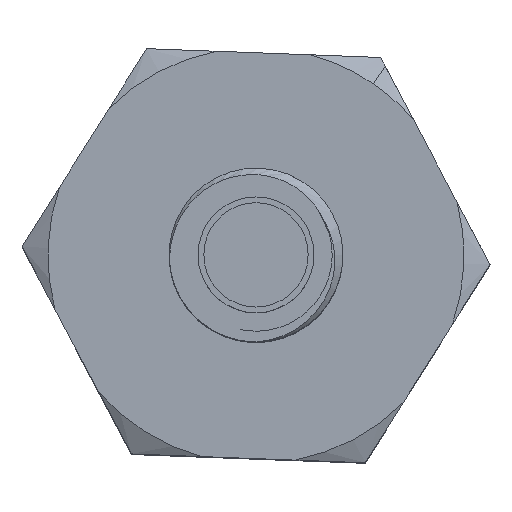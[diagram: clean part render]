
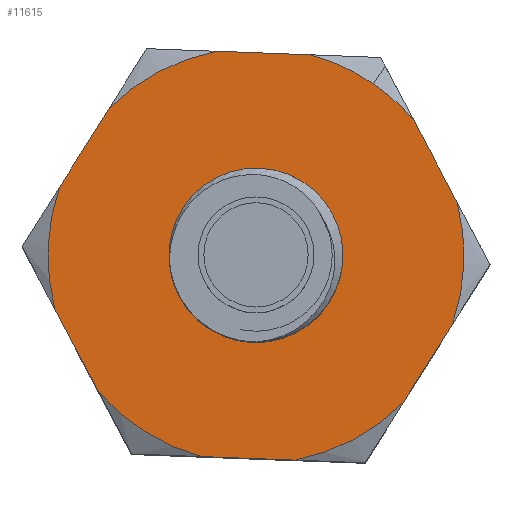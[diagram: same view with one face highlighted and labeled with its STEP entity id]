
A CAD part, top view. The second image highlights one B-rep face of the part: STEP entity #11615.
In plain terms, the highlighted planar face has unit normal (0, 0, 1).
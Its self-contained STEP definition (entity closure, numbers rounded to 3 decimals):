
#389 = EDGE_CURVE ( 'NONE', #17917, #15603, #6357, .T. ) ;
#427 = CARTESIAN_POINT ( 'NONE',  ( -2.151, -3.421, 9.981 ) ) ;
#443 = CARTESIAN_POINT ( 'NONE',  ( 1.887, -3.574, 9.981 ) ) ;
#696 = CARTESIAN_POINT ( 'NONE',  ( 0., 0., 9.981 ) ) ;
#759 = DIRECTION ( 'NONE',  ( 0.564, 0.826, 0. ) ) ;
#906 = LINE ( 'NONE', #13790, #20786 ) ;
#938 = DIRECTION ( 'NONE',  ( 0., 0., -1. ) ) ;
#1010 = DIRECTION ( 'NONE',  ( 0.564, 0.826, 0. ) ) ;
#1271 = VERTEX_POINT ( 'NONE', #2120 ) ;
#1350 = VERTEX_POINT ( 'NONE', #15211 ) ;
#1403 = AXIS2_PLACEMENT_3D ( 'NONE', #5872, #12324, #759 ) ;
#1842 = LINE ( 'NONE', #8818, #10726 ) ;
#1928 = EDGE_CURVE ( 'NONE', #4442, #4373, #15691, .T. ) ;
#2060 = DIRECTION ( 'NONE',  ( -0.999, 0.038, 0. ) ) ;
#2079 = EDGE_CURVE ( 'NONE', #9504, #17917, #7783, .T. ) ;
#2120 = CARTESIAN_POINT ( 'NONE',  ( -2.534, 2.545, 9.981 ) ) ;
#2253 = DIRECTION ( 'NONE',  ( 0., 0., -1. ) ) ;
#2371 = EDGE_CURVE ( 'NONE', #19384, #3657, #9633, .T. ) ;
#2425 = AXIS2_PLACEMENT_3D ( 'NONE', #5243, #11983, #8541 ) ;
#2727 = EDGE_LOOP ( 'NONE', ( #9999, #3192, #7605, #10516, #6699, #14435, #17803, #12354, #18243, #6307, #13160, #17662, #14096 ) ) ;
#2866 = VERTEX_POINT ( 'NONE', #8608 ) ;
#3192 = ORIENTED_EDGE ( 'NONE', *, *, #16004, .F. ) ;
#3657 = VERTEX_POINT ( 'NONE', #16696 ) ;
#3778 = LINE ( 'NONE', #5097, #21040 ) ;
#3908 = DIRECTION ( 'NONE',  ( 0.564, 0.826, 0. ) ) ;
#4017 = VERTEX_POINT ( 'NONE', #5339 ) ;
#4373 = VERTEX_POINT ( 'NONE', #11400 ) ;
#4406 = CIRCLE ( 'NONE', #7607, 3.591 ) ;
#4442 = VERTEX_POINT ( 'NONE', #17186 ) ;
#4536 = AXIS2_PLACEMENT_3D ( 'NONE', #10612, #7151, #7292 ) ;
#4654 = FACE_BOUND ( 'NONE', #5510, .T. ) ;
#4879 = CARTESIAN_POINT ( 'NONE',  ( 0.936, 3.467, 9.981 ) ) ;
#5097 = CARTESIAN_POINT ( 'NONE',  ( -1.887, 3.574, 9.981 ) ) ;
#5109 = CARTESIAN_POINT ( 'NONE',  ( -2.719, -2.346, 9.981 ) ) ;
#5243 = CARTESIAN_POINT ( 'NONE',  ( 0., 0., 9.981 ) ) ;
#5339 = CARTESIAN_POINT ( 'NONE',  ( -0.673, 3.528, 9.981 ) ) ;
#5444 = DIRECTION ( 'NONE',  ( 0.532, 0.847, 0. ) ) ;
#5510 = EDGE_LOOP ( 'NONE', ( #19139, #19621 ) ) ;
#5611 = AXIS2_PLACEMENT_3D ( 'NONE', #7961, #11264, #7802 ) ;
#5872 = CARTESIAN_POINT ( 'NONE',  ( 0., 0., 9.981 ) ) ;
#6307 = ORIENTED_EDGE ( 'NONE', *, *, #9048, .F. ) ;
#6357 = LINE ( 'NONE', #10193, #18938 ) ;
#6467 = FACE_OUTER_BOUND ( 'NONE', #2727, .T. ) ;
#6570 = EDGE_CURVE ( 'NONE', #12759, #1350, #14725, .T. ) ;
#6652 = CARTESIAN_POINT ( 'NONE',  ( 2.025, 2.966, 9.981 ) ) ;
#6699 = ORIENTED_EDGE ( 'NONE', *, *, #18190, .F. ) ;
#7038 = CIRCLE ( 'NONE', #16900, 1.5 ) ;
#7133 = CARTESIAN_POINT ( 'NONE',  ( -0.936, -3.467, 9.981 ) ) ;
#7151 = DIRECTION ( 'NONE',  ( 0., 0., -1. ) ) ;
#7292 = DIRECTION ( 'NONE',  ( 0.564, 0.826, 0. ) ) ;
#7299 = LINE ( 'NONE', #443, #20149 ) ;
#7605 = ORIENTED_EDGE ( 'NONE', *, *, #6570, .F. ) ;
#7607 = AXIS2_PLACEMENT_3D ( 'NONE', #18495, #16363, #15172 ) ;
#7783 = CIRCLE ( 'NONE', #13532, 3.591 ) ;
#7802 = DIRECTION ( 'NONE',  ( 0.564, 0.826, 0. ) ) ;
#7902 = CARTESIAN_POINT ( 'NONE',  ( 3.471, 0.923, 9.981 ) ) ;
#7961 = CARTESIAN_POINT ( 'NONE',  ( 0., 0., 9.981 ) ) ;
#7978 = DIRECTION ( 'NONE',  ( 0.564, 0.826, 0. ) ) ;
#8129 = VERTEX_POINT ( 'NONE', #7133 ) ;
#8528 = DIRECTION ( 'NONE',  ( 0., 0., -1. ) ) ;
#8541 = DIRECTION ( 'NONE',  ( 0.564, 0.826, 0. ) ) ;
#8608 = CARTESIAN_POINT ( 'NONE',  ( 0.673, -3.528, 9.981 ) ) ;
#8818 = CARTESIAN_POINT ( 'NONE',  ( 2.151, 3.421, 9.981 ) ) ;
#9048 = EDGE_CURVE ( 'NONE', #8129, #15952, #4406, .T. ) ;
#9240 = PLANE ( 'NONE',  #1403 ) ;
#9266 = CARTESIAN_POINT ( 'NONE',  ( 0., 0., 9.981 ) ) ;
#9504 = VERTEX_POINT ( 'NONE', #7902 ) ;
#9633 = CIRCLE ( 'NONE', #10876, 1.5 ) ;
#9999 = ORIENTED_EDGE ( 'NONE', *, *, #2079, .F. ) ;
#10193 = CARTESIAN_POINT ( 'NONE',  ( 4.039, -0.152, 9.981 ) ) ;
#10498 = DIRECTION ( 'NONE',  ( 0., 0., -1. ) ) ;
#10516 = ORIENTED_EDGE ( 'NONE', *, *, #17763, .F. ) ;
#10612 = CARTESIAN_POINT ( 'NONE',  ( 0., 0., 9.981 ) ) ;
#10726 = VECTOR ( 'NONE', #17169, 1000. ) ;
#10876 = AXIS2_PLACEMENT_3D ( 'NONE', #9266, #938, #1010 ) ;
#10912 = EDGE_CURVE ( 'NONE', #2866, #8129, #7299, .T. ) ;
#11264 = DIRECTION ( 'NONE',  ( 0., 0., -1. ) ) ;
#11320 = VERTEX_POINT ( 'NONE', #4879 ) ;
#11400 = CARTESIAN_POINT ( 'NONE',  ( -3.392, 1.181, 9.981 ) ) ;
#11511 = EDGE_CURVE ( 'NONE', #1271, #4017, #12500, .T. ) ;
#11615 = ADVANCED_FACE ( 'NONE', ( #4654, #6467 ), #9240, .F. ) ;
#11983 = DIRECTION ( 'NONE',  ( 0., 0., -1. ) ) ;
#12124 = DIRECTION ( 'NONE',  ( -0.467, 0.884, 0. ) ) ;
#12324 = DIRECTION ( 'NONE',  ( 0., 0., -1. ) ) ;
#12354 = ORIENTED_EDGE ( 'NONE', *, *, #1928, .F. ) ;
#12500 = CIRCLE ( 'NONE', #14523, 3.591 ) ;
#12759 = VERTEX_POINT ( 'NONE', #6652 ) ;
#12842 = CARTESIAN_POINT ( 'NONE',  ( 3.392, -1.181, 9.981 ) ) ;
#13037 = CARTESIAN_POINT ( 'NONE',  ( 0., 0., 9.981 ) ) ;
#13160 = ORIENTED_EDGE ( 'NONE', *, *, #10912, .F. ) ;
#13478 = EDGE_CURVE ( 'NONE', #4373, #1271, #906, .T. ) ;
#13532 = AXIS2_PLACEMENT_3D ( 'NONE', #13037, #19705, #7978 ) ;
#13790 = CARTESIAN_POINT ( 'NONE',  ( -4.039, 0.152, 9.981 ) ) ;
#13832 = LINE ( 'NONE', #427, #18828 ) ;
#14096 = ORIENTED_EDGE ( 'NONE', *, *, #389, .F. ) ;
#14435 = ORIENTED_EDGE ( 'NONE', *, *, #11511, .F. ) ;
#14523 = AXIS2_PLACEMENT_3D ( 'NONE', #20590, #10498, #3908 ) ;
#14725 = CIRCLE ( 'NONE', #4536, 3.591 ) ;
#15104 = CIRCLE ( 'NONE', #5611, 3.591 ) ;
#15172 = DIRECTION ( 'NONE',  ( 0.564, 0.826, 0. ) ) ;
#15211 = CARTESIAN_POINT ( 'NONE',  ( 2.719, 2.346, 9.981 ) ) ;
#15603 = VERTEX_POINT ( 'NONE', #19790 ) ;
#15691 = CIRCLE ( 'NONE', #17415, 3.591 ) ;
#15934 = EDGE_CURVE ( 'NONE', #3657, #19384, #7038, .T. ) ;
#15952 = VERTEX_POINT ( 'NONE', #5109 ) ;
#16004 = EDGE_CURVE ( 'NONE', #1350, #9504, #1842, .T. ) ;
#16137 = EDGE_CURVE ( 'NONE', #15952, #4442, #13832, .T. ) ;
#16193 = CARTESIAN_POINT ( 'NONE',  ( 0.846, 1.239, 9.981 ) ) ;
#16363 = DIRECTION ( 'NONE',  ( 0., 0., -1. ) ) ;
#16696 = CARTESIAN_POINT ( 'NONE',  ( -0.846, -1.239, 9.981 ) ) ;
#16798 = EDGE_CURVE ( 'NONE', #15603, #2866, #15104, .T. ) ;
#16900 = AXIS2_PLACEMENT_3D ( 'NONE', #18564, #8528, #20237 ) ;
#17169 = DIRECTION ( 'NONE',  ( 0.467, -0.884, 0. ) ) ;
#17186 = CARTESIAN_POINT ( 'NONE',  ( -3.471, -0.923, 9.981 ) ) ;
#17415 = AXIS2_PLACEMENT_3D ( 'NONE', #696, #2253, #18992 ) ;
#17662 = ORIENTED_EDGE ( 'NONE', *, *, #16798, .F. ) ;
#17763 = EDGE_CURVE ( 'NONE', #11320, #12759, #19511, .T. ) ;
#17803 = ORIENTED_EDGE ( 'NONE', *, *, #13478, .F. ) ;
#17917 = VERTEX_POINT ( 'NONE', #12842 ) ;
#18190 = EDGE_CURVE ( 'NONE', #4017, #11320, #3778, .T. ) ;
#18243 = ORIENTED_EDGE ( 'NONE', *, *, #16137, .F. ) ;
#18412 = DIRECTION ( 'NONE',  ( 0.999, -0.038, 0. ) ) ;
#18495 = CARTESIAN_POINT ( 'NONE',  ( 0., 0., 9.981 ) ) ;
#18564 = CARTESIAN_POINT ( 'NONE',  ( 0., 0., 9.981 ) ) ;
#18828 = VECTOR ( 'NONE', #12124, 1000. ) ;
#18938 = VECTOR ( 'NONE', #20369, 1000. ) ;
#18992 = DIRECTION ( 'NONE',  ( 0.564, 0.826, 0. ) ) ;
#19139 = ORIENTED_EDGE ( 'NONE', *, *, #15934, .T. ) ;
#19384 = VERTEX_POINT ( 'NONE', #16193 ) ;
#19511 = CIRCLE ( 'NONE', #2425, 3.591 ) ;
#19621 = ORIENTED_EDGE ( 'NONE', *, *, #2371, .T. ) ;
#19705 = DIRECTION ( 'NONE',  ( 0., 0., -1. ) ) ;
#19790 = CARTESIAN_POINT ( 'NONE',  ( 2.534, -2.545, 9.981 ) ) ;
#20149 = VECTOR ( 'NONE', #2060, 1000. ) ;
#20237 = DIRECTION ( 'NONE',  ( 0.564, 0.826, 0. ) ) ;
#20369 = DIRECTION ( 'NONE',  ( -0.532, -0.847, 0. ) ) ;
#20590 = CARTESIAN_POINT ( 'NONE',  ( 0., 0., 9.981 ) ) ;
#20786 = VECTOR ( 'NONE', #5444, 1000. ) ;
#21040 = VECTOR ( 'NONE', #18412, 1000. ) ;
